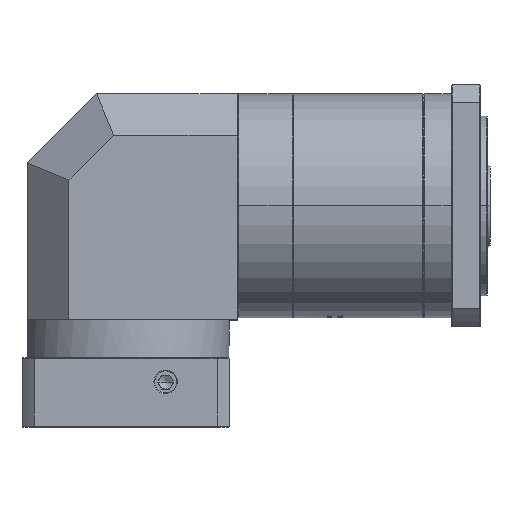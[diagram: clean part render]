
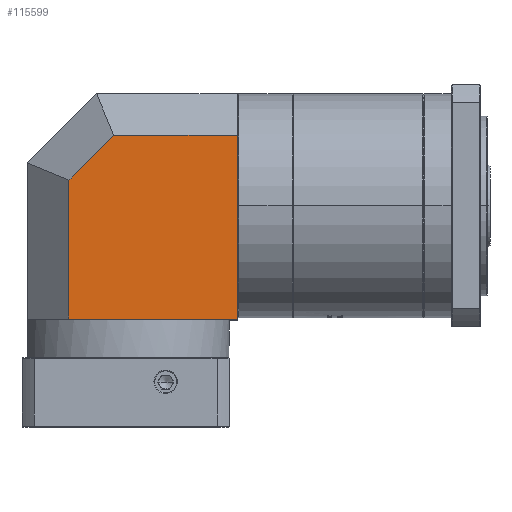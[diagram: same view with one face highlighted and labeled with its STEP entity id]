
A CAD part, top view. The second image highlights one B-rep face of the part: STEP entity #115599.
In plain terms, the highlighted planar face has unit normal (0, 0, 1).
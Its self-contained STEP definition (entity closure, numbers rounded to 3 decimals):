
#1498 = ORIENTED_EDGE ( 'NONE', *, *, #1793, .T. ) ;
#1793 = EDGE_CURVE ( 'NONE', #90829, #17743, #130712, .T. ) ;
#6144 = LINE ( 'NONE', #57329, #123387 ) ;
#6464 = DIRECTION ( 'NONE',  ( 0., 0., 1. ) ) ;
#6959 = DIRECTION ( 'NONE',  ( 1., 0., 0. ) ) ;
#7985 = EDGE_CURVE ( 'NONE', #17743, #98094, #93178, .T. ) ;
#10267 = ORIENTED_EDGE ( 'NONE', *, *, #106130, .F. ) ;
#15485 = CARTESIAN_POINT ( 'NONE',  ( -2.741, -17.756, 323.25 ) ) ;
#17743 = VERTEX_POINT ( 'NONE', #52713 ) ;
#21475 = VECTOR ( 'NONE', #112516, 1000. ) ;
#23042 = DIRECTION ( 'NONE',  ( 1., 0., 0. ) ) ;
#41382 = DIRECTION ( 'NONE',  ( -0.707, -0.707, 0. ) ) ;
#45546 = ORIENTED_EDGE ( 'NONE', *, *, #101529, .T. ) ;
#52713 = CARTESIAN_POINT ( 'NONE',  ( -35.167, -50.182, 323.25 ) ) ;
#56812 = AXIS2_PLACEMENT_3D ( 'NONE', #133110, #6464, #6959 ) ;
#57329 = CARTESIAN_POINT ( 'NONE',  ( 86.533, -69.506, 323.25 ) ) ;
#62829 = ORIENTED_EDGE ( 'NONE', *, *, #141057, .F. ) ;
#73176 = DIRECTION ( 'NONE',  ( 0., -1., 0. ) ) ;
#74550 = VERTEX_POINT ( 'NONE', #125369 ) ;
#74932 = PLANE ( 'NONE',  #56812 ) ;
#79536 = LINE ( 'NONE', #124442, #140178 ) ;
#82442 = VECTOR ( 'NONE', #140248, 1000. ) ;
#84458 = VECTOR ( 'NONE', #41382, 1000. ) ;
#90829 = VERTEX_POINT ( 'NONE', #15485 ) ;
#93178 = LINE ( 'NONE', #128284, #82442 ) ;
#94597 = VERTEX_POINT ( 'NONE', #98038 ) ;
#98038 = CARTESIAN_POINT ( 'NONE',  ( 86.533, -17.756, 323.25 ) ) ;
#98094 = VERTEX_POINT ( 'NONE', #101485 ) ;
#101485 = CARTESIAN_POINT ( 'NONE',  ( -35.167, -150.756, 323.25 ) ) ;
#101529 = EDGE_CURVE ( 'NONE', #98094, #74550, #79536, .T. ) ;
#106130 = EDGE_CURVE ( 'NONE', #94597, #74550, #6144, .T. ) ;
#112516 = DIRECTION ( 'NONE',  ( 1., 0., 0. ) ) ;
#115599 = ADVANCED_FACE ( 'NONE', ( #135531 ), #74932, .T. ) ;
#121432 = CARTESIAN_POINT ( 'NONE',  ( -2.741, -17.756, 323.25 ) ) ;
#122248 = ORIENTED_EDGE ( 'NONE', *, *, #7985, .T. ) ;
#122655 = EDGE_LOOP ( 'NONE', ( #45546, #10267, #62829, #1498, #122248 ) ) ;
#123387 = VECTOR ( 'NONE', #73176, 1000. ) ;
#124442 = CARTESIAN_POINT ( 'NONE',  ( 10.933, -150.756, 323.25 ) ) ;
#124868 = CARTESIAN_POINT ( 'NONE',  ( 10.933, -17.756, 323.25 ) ) ;
#125369 = CARTESIAN_POINT ( 'NONE',  ( 86.533, -150.756, 323.25 ) ) ;
#128284 = CARTESIAN_POINT ( 'NONE',  ( -35.167, -69.506, 323.25 ) ) ;
#130712 = LINE ( 'NONE', #121432, #84458 ) ;
#133110 = CARTESIAN_POINT ( 'NONE',  ( 10.933, -69.506, 323.25 ) ) ;
#135531 = FACE_OUTER_BOUND ( 'NONE', #122655, .T. ) ;
#140178 = VECTOR ( 'NONE', #23042, 1000. ) ;
#140248 = DIRECTION ( 'NONE',  ( 0., -1., 0. ) ) ;
#140807 = LINE ( 'NONE', #124868, #21475 ) ;
#141057 = EDGE_CURVE ( 'NONE', #90829, #94597, #140807, .T. ) ;
